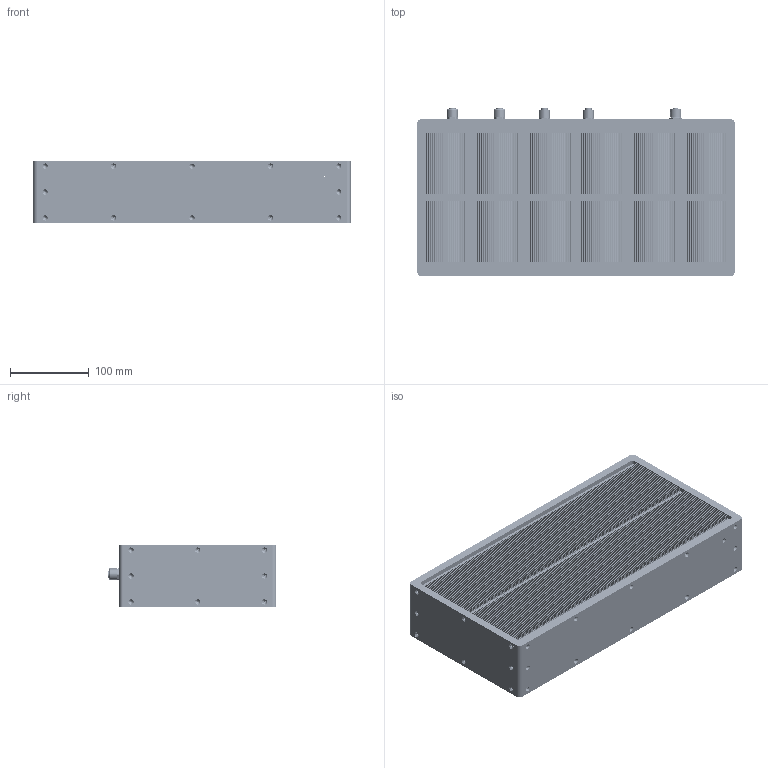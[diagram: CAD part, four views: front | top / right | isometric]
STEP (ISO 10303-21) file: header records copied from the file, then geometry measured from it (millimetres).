
FILE_DESCRIPTION (( 'STEP AP203' ), '1' );
FILE_NAME ('HZTK-KZQ02-00 ¿ØÖÆÆ÷Íâ¿Ç.STEP', '2026-10-10T01:00:54', ( '' ), ( '' ), 'SwSTEP 2.0', 'SolidWorks 2025', '' );
FILE_SCHEMA (( 'CONFIG_CONTROL_DESIGN' ));
Length unit declared in the file: millimetre
Products named in the file (15): HZTK-KZQ02-04 立柱; GB╱T 70.1-2008[内六角圆柱头螺钉M3×6]_M3×6; CONN-TH_M12-S2A-GPLM12-JD; 装配体3^HZTK-KZQ02-00  控制器外壳; CONN-TH_M12-S12A-GPLM12(1); HZTK-KZQ02-00  控制器外壳; HZTK-KZQ02-03 开孔长围板; CONN-TH_M12-S8A-GPLM12-JD(1); HZTK-KZQ02-01 短围板; HZTK-KZQ02-05 铝制散热鳍片; HZTK-KZQ02-06 电路板 散热板厚度配做; 电路板; HZTK-KZQ02-07 电路板 转接 ; 网口; HZTK-KZQ02-02 长围板
Assembly tree (22 placements, depth 3):
  HZTK-KZQ02-00  控制器外壳
    HZTK-KZQ02-05 铝制散热鳍片  x2
    HZTK-KZQ02-04 立柱  x4
    HZTK-KZQ02-02 长围板
    HZTK-KZQ02-01 短围板  x2
    装配体3^HZTK-KZQ02-00  控制器外壳
      电路板
      网口  x2
      CONN-TH_M12-S2A-GPLM12-JD
      CONN-TH_M12-S8A-GPLM12-JD(1)  x2
      CONN-TH_M12-S12A-GPLM12(1)  x2
    HZTK-KZQ02-03 开孔长围板
    HZTK-KZQ02-07 电路板 转接 
    GB╱T 70.1-2008[内六角圆柱头螺钉M3×6]_M3×6
    HZTK-KZQ02-06 电路板 散热板厚度配做
Bounding box: 404 x 214.5 x 80 mm (x, y, z)
Volume: 2924896.8 mm3; surface area: 1305664.2 mm2
Topology: 54 solids, 56 shells, 15016 faces, 42420 edges, 27490 vertices
Faces by surface type: plane 8425, cylinder 3643, bspline 1678, cone 794, sphere 242, torus 234
Entity records: 376463 total; most frequent: CARTESIAN_POINT 149151, ORIENTED_EDGE 51728, DIRECTION 39457, EDGE_CURVE 25864, VERTEX_POINT 16947, LINE 15917, VECTOR 15917, AXIS2_PLACEMENT_3D 11770
